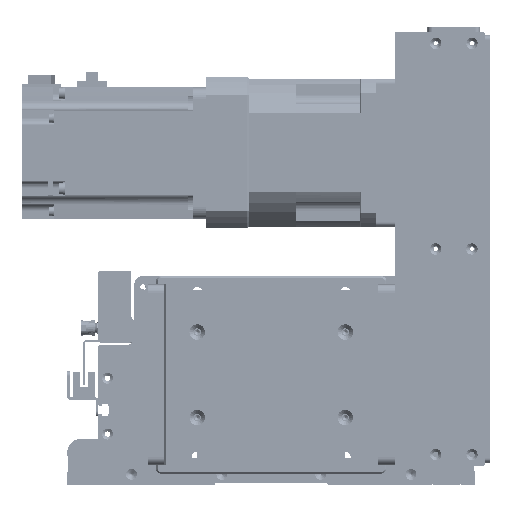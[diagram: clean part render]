
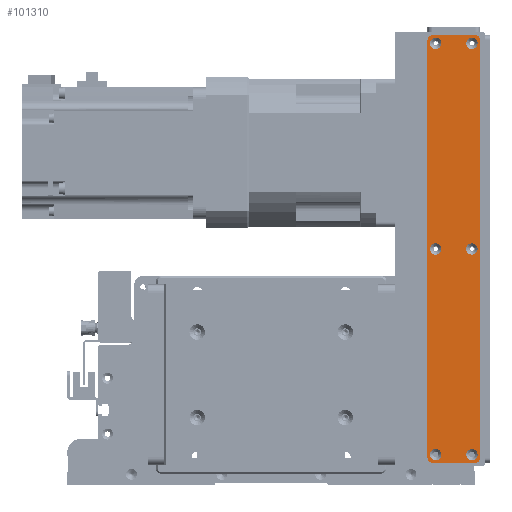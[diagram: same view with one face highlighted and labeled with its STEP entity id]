
A CAD part, front view. The second image highlights one B-rep face of the part: STEP entity #101310.
In plain terms, the highlighted planar face has unit normal (0, -1, 0).
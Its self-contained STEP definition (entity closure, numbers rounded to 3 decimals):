
#2443=FACE_BOUND('',#18634,.T.);
#2444=FACE_BOUND('',#18635,.T.);
#2445=FACE_BOUND('',#18636,.T.);
#2446=FACE_BOUND('',#18637,.T.);
#2447=FACE_BOUND('',#18638,.T.);
#2448=FACE_BOUND('',#18639,.T.);
#6203=PLANE('',#110086);
#12543=FACE_OUTER_BOUND('',#18633,.T.);
#18633=EDGE_LOOP('',(#95737,#95738,#95739,#95740,#95741,#95742,#95743,#95744));
#18634=EDGE_LOOP('',(#95745));
#18635=EDGE_LOOP('',(#95746));
#18636=EDGE_LOOP('',(#95747));
#18637=EDGE_LOOP('',(#95748));
#18638=EDGE_LOOP('',(#95749));
#18639=EDGE_LOOP('',(#95750));
#29788=LINE('',#170688,#40936);
#29789=LINE('',#170692,#40937);
#29790=LINE('',#170696,#40938);
#29791=LINE('',#170699,#40939);
#40936=VECTOR('',#137262,10.);
#40937=VECTOR('',#137265,10.);
#40938=VECTOR('',#137268,10.);
#40939=VECTOR('',#137271,10.);
#43497=CIRCLE('',#110054,3.45);
#43500=CIRCLE('',#110059,3.45);
#43503=CIRCLE('',#110064,3.45);
#43506=CIRCLE('',#110069,3.45);
#43509=CIRCLE('',#110074,3.45);
#43512=CIRCLE('',#110079,3.45);
#43515=CIRCLE('',#110084,3.);
#43517=CIRCLE('',#110087,3.);
#43518=CIRCLE('',#110088,3.);
#43519=CIRCLE('',#110089,3.);
#52991=VERTEX_POINT('',#170618);
#52994=VERTEX_POINT('',#170628);
#52997=VERTEX_POINT('',#170638);
#53000=VERTEX_POINT('',#170648);
#53003=VERTEX_POINT('',#170658);
#53006=VERTEX_POINT('',#170668);
#53009=VERTEX_POINT('',#170678);
#53010=VERTEX_POINT('',#170679);
#53013=VERTEX_POINT('',#170687);
#53014=VERTEX_POINT('',#170689);
#53015=VERTEX_POINT('',#170691);
#53016=VERTEX_POINT('',#170693);
#53017=VERTEX_POINT('',#170695);
#53018=VERTEX_POINT('',#170697);
#67227=EDGE_CURVE('',#52991,#52991,#43497,.T.);
#67232=EDGE_CURVE('',#52994,#52994,#43500,.T.);
#67237=EDGE_CURVE('',#52997,#52997,#43503,.T.);
#67242=EDGE_CURVE('',#53000,#53000,#43506,.T.);
#67247=EDGE_CURVE('',#53003,#53003,#43509,.T.);
#67252=EDGE_CURVE('',#53006,#53006,#43512,.T.);
#67257=EDGE_CURVE('',#53009,#53010,#43515,.T.);
#67261=EDGE_CURVE('',#53009,#53013,#29788,.T.);
#67262=EDGE_CURVE('',#53014,#53013,#43517,.T.);
#67263=EDGE_CURVE('',#53014,#53015,#29789,.T.);
#67264=EDGE_CURVE('',#53016,#53015,#43518,.T.);
#67265=EDGE_CURVE('',#53016,#53017,#29790,.T.);
#67266=EDGE_CURVE('',#53018,#53017,#43519,.T.);
#67267=EDGE_CURVE('',#53018,#53010,#29791,.T.);
#95737=ORIENTED_EDGE('',*,*,#67257,.F.);
#95738=ORIENTED_EDGE('',*,*,#67261,.T.);
#95739=ORIENTED_EDGE('',*,*,#67262,.F.);
#95740=ORIENTED_EDGE('',*,*,#67263,.T.);
#95741=ORIENTED_EDGE('',*,*,#67264,.F.);
#95742=ORIENTED_EDGE('',*,*,#67265,.T.);
#95743=ORIENTED_EDGE('',*,*,#67266,.F.);
#95744=ORIENTED_EDGE('',*,*,#67267,.T.);
#95745=ORIENTED_EDGE('',*,*,#67227,.T.);
#95746=ORIENTED_EDGE('',*,*,#67232,.T.);
#95747=ORIENTED_EDGE('',*,*,#67237,.T.);
#95748=ORIENTED_EDGE('',*,*,#67242,.T.);
#95749=ORIENTED_EDGE('',*,*,#67247,.T.);
#95750=ORIENTED_EDGE('',*,*,#67252,.T.);
#101310=ADVANCED_FACE('',(#12543,#2443,#2444,#2445,#2446,#2447,#2448),#6203,
 .T.);
#110054=AXIS2_PLACEMENT_3D('',#170619,#137182,#137183);
#110059=AXIS2_PLACEMENT_3D('',#170629,#137194,#137195);
#110064=AXIS2_PLACEMENT_3D('',#170639,#137206,#137207);
#110069=AXIS2_PLACEMENT_3D('',#170649,#137218,#137219);
#110074=AXIS2_PLACEMENT_3D('',#170659,#137230,#137231);
#110079=AXIS2_PLACEMENT_3D('',#170669,#137242,#137243);
#110084=AXIS2_PLACEMENT_3D('',#170680,#137254,#137255);
#110086=AXIS2_PLACEMENT_3D('',#170686,#137260,#137261);
#110087=AXIS2_PLACEMENT_3D('',#170690,#137263,#137264);
#110088=AXIS2_PLACEMENT_3D('',#170694,#137266,#137267);
#110089=AXIS2_PLACEMENT_3D('',#170698,#137269,#137270);
#137182=DIRECTION('center_axis',(0.,1.,0.));
#137183=DIRECTION('ref_axis',(1.,0.,0.));
#137194=DIRECTION('center_axis',(0.,1.,0.));
#137195=DIRECTION('ref_axis',(1.,0.,0.));
#137206=DIRECTION('center_axis',(0.,1.,0.));
#137207=DIRECTION('ref_axis',(1.,0.,0.));
#137218=DIRECTION('center_axis',(0.,1.,0.));
#137219=DIRECTION('ref_axis',(1.,0.,0.));
#137230=DIRECTION('center_axis',(0.,1.,0.));
#137231=DIRECTION('ref_axis',(1.,0.,0.));
#137242=DIRECTION('center_axis',(0.,1.,0.));
#137243=DIRECTION('ref_axis',(1.,0.,0.));
#137254=DIRECTION('center_axis',(0.,1.,0.));
#137255=DIRECTION('ref_axis',(-0.707,0.,0.707));
#137260=DIRECTION('center_axis',(0.,-1.,0.));
#137261=DIRECTION('ref_axis',(0.,0.,-1.));
#137262=DIRECTION('',(0.,0.,-1.));
#137263=DIRECTION('center_axis',(0.,1.,0.));
#137264=DIRECTION('ref_axis',(-0.707,0.,-0.707));
#137265=DIRECTION('',(1.,0.,0.));
#137266=DIRECTION('center_axis',(0.,1.,0.));
#137267=DIRECTION('ref_axis',(0.707,0.,-0.707));
#137268=DIRECTION('',(0.,0.,1.));
#137269=DIRECTION('center_axis',(0.,1.,0.));
#137270=DIRECTION('ref_axis',(0.707,0.,0.707));
#137271=DIRECTION('',(-1.,0.,0.));
#170618=CARTESIAN_POINT('',(121.55,-1.5,11.));
#170619=CARTESIAN_POINT('Origin',(125.,-1.5,11.));
#170628=CARTESIAN_POINT('',(-3.45,-1.5,11.));
#170629=CARTESIAN_POINT('Origin',(0.,-1.5,11.));
#170638=CARTESIAN_POINT('',(-128.45,-1.5,11.));
#170639=CARTESIAN_POINT('Origin',(-125.,-1.5,11.));
#170648=CARTESIAN_POINT('',(-128.45,-1.5,-11.));
#170649=CARTESIAN_POINT('Origin',(-125.,-1.5,-11.));
#170658=CARTESIAN_POINT('',(-3.45,-1.5,-11.));
#170659=CARTESIAN_POINT('Origin',(0.,-1.5,-11.));
#170668=CARTESIAN_POINT('',(121.55,-1.5,-11.));
#170669=CARTESIAN_POINT('Origin',(125.,-1.5,-11.));
#170678=CARTESIAN_POINT('',(-130.,-1.5,13.));
#170679=CARTESIAN_POINT('',(-127.,-1.5,16.));
#170680=CARTESIAN_POINT('Origin',(-127.,-1.5,13.));
#170686=CARTESIAN_POINT('Origin',(0.,-1.5,0.));
#170687=CARTESIAN_POINT('',(-130.,-1.5,-13.));
#170688=CARTESIAN_POINT('',(-130.,-1.5,16.));
#170689=CARTESIAN_POINT('',(-127.,-1.5,-16.));
#170690=CARTESIAN_POINT('Origin',(-127.,-1.5,-13.));
#170691=CARTESIAN_POINT('',(127.,-1.5,-16.));
#170692=CARTESIAN_POINT('',(-130.,-1.5,-16.));
#170693=CARTESIAN_POINT('',(130.,-1.5,-13.));
#170694=CARTESIAN_POINT('Origin',(127.,-1.5,-13.));
#170695=CARTESIAN_POINT('',(130.,-1.5,13.));
#170696=CARTESIAN_POINT('',(130.,-1.5,-16.));
#170697=CARTESIAN_POINT('',(127.,-1.5,16.));
#170698=CARTESIAN_POINT('Origin',(127.,-1.5,13.));
#170699=CARTESIAN_POINT('',(130.,-1.5,16.));
